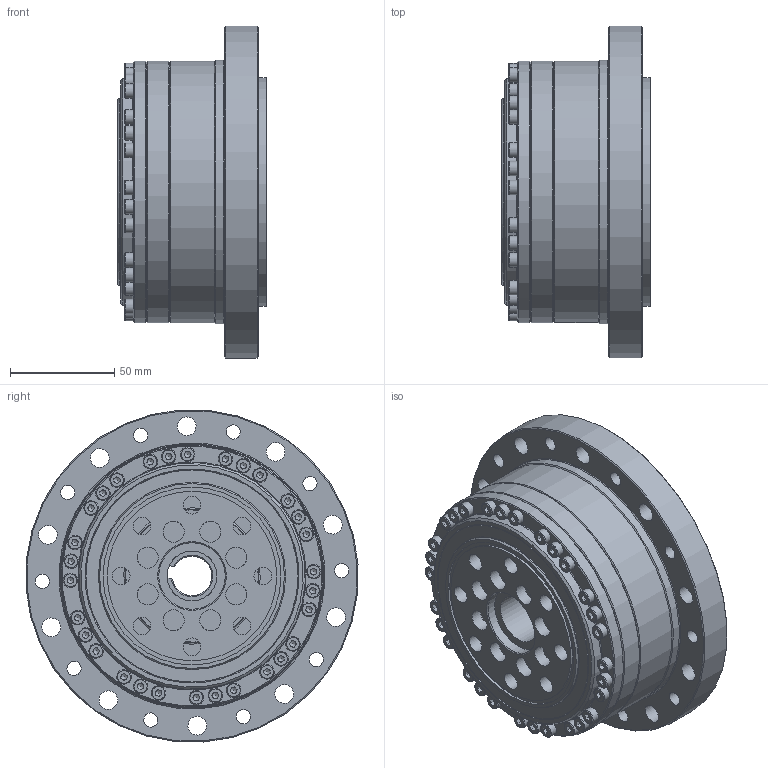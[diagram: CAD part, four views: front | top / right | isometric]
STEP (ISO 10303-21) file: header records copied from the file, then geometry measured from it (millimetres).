
FILE_DESCRIPTION (( 'STEP AP203' ), '1' );
FILE_NAME ('LCSG-40-XXX-C-I-S0.STEP', '2025-01-20T02:09:51', ( '' ), ( '' ), 'SwSTEP 2.0', 'SolidWorks 2023', '' );
FILE_SCHEMA (( 'CONFIG_CONTROL_DESIGN' ));
Length unit declared in the file: metre
Products named in the file (1): LCSG-40-XXX-C-I-S0
Bounding box: 71.5 x 159.6 x 159.6 mm (x, y, z)
Volume: 651471.2 mm3; surface area: 296092.5 mm2
Topology: 77 solids, 77 shells, 1404 faces, 3281 edges, 2053 vertices
Faces by surface type: plane 761, cylinder 343, cone 175, bspline 125
Full cylindrical faces by diameter (mm): 2.5 x4, 3 x4, 3.3 x31, 3.4 x4, 4 x34, 4.2 x4, 4.5 x50, 5.5 x8, 6.8 x10, 7 x30, 8.5 x8, 9 x10, 10.2 x8, 12 x8, 12.5 x16, 18 x8, 24 x2, 28 x2, 32 x2, 40 x1, 40.2 x1, 64 x1, 66 x1, 67 x2, 70.5 x1, 71.5 x1, 72 x1, 75 x2, 76.928 x2, 78.13 x1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
Entity records: 43795 total; most frequent: CARTESIAN_POINT 14648, DIRECTION 6044, ORIENTED_EDGE 5126, EDGE_CURVE 2563, AXIS2_PLACEMENT_3D 2443, EDGE_LOOP 2278, VERTEX_POINT 1897, FACE_OUTER_BOUND 1779
